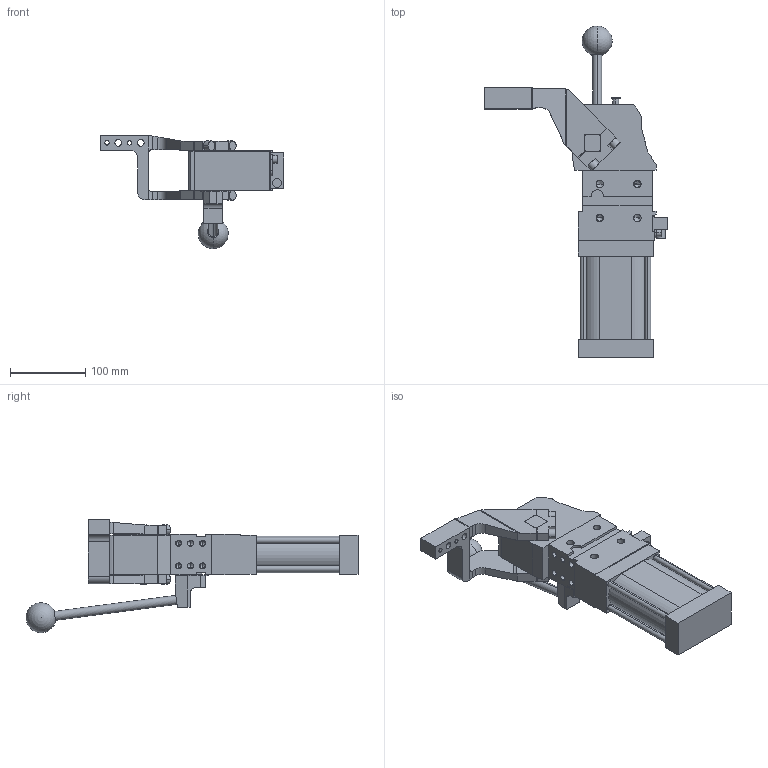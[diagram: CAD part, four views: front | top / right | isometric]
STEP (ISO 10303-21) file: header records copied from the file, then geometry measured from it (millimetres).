
FILE_DESCRIPTION (( 'STEP AP214' ), '1' );
FILE_NAME ('cplm63lbv3si1g_135.STEP', '2023-01-26T14:54:39', ( '' ), ( '' ), 'SwSTEP 2.0', 'SolidWorks 2022', '' );
FILE_SCHEMA (( 'AUTOMOTIVE_DESIGN' ));
Length unit declared in the file: millimetre
Products named in the file (5): blocchetto_VEP_0; leva_sx_offset_45_cpl63; comando_manuale_cplm_63; cplm63lbv3si1g_135; meccanica_cplm_63
Assembly tree (4 placements, depth 2):
  cplm63lbv3si1g_135
    meccanica_cplm_63
    blocchetto_VEP_0
    leva_sx_offset_45_cpl63
    comando_manuale_cplm_63
Bounding box: 244.5 x 442.23 x 151 mm (x, y, z)
Volume: 1888099.3 mm3; surface area: 211431.7 mm2
Topology: 4 solids, 4 shells, 432 faces, 1134 edges, 703 vertices
Faces by surface type: plane 219, cylinder 161, cone 50, sphere 2
Entity records: 14577 total; most frequent: CARTESIAN_POINT 2322, DIRECTION 2302, ORIENTED_EDGE 2166, EDGE_CURVE 1083, AXIS2_PLACEMENT_3D 794, LINE 714, VECTOR 714, VERTEX_POINT 700
